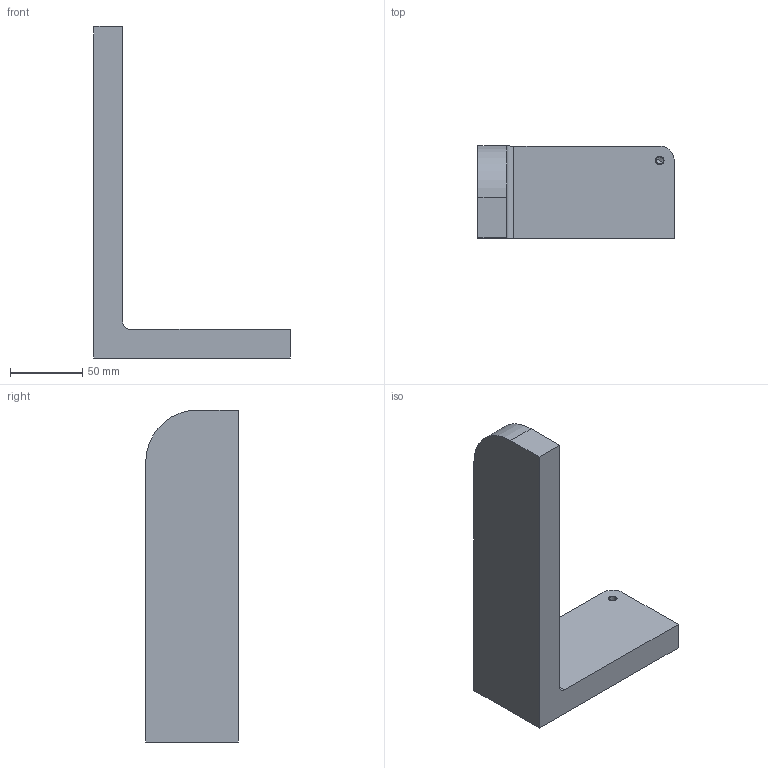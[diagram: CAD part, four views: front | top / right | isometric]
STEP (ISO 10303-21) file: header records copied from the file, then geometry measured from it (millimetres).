
FILE_DESCRIPTION(('CATIA V5 STEP Exchange'),'2;1');
FILE_NAME('C:\_Andres\UNIVERSIDAD\IQS\ASIGNATURAS\DAO\EXF\EXF-16172c\2inicio\Villarroya_Marquina_Ej01_v36.stp','2017-03-05T15:11:13+00:00',('none'),('none'),'CATIA Version 5-6 Release 2014 SP1 HF18','CATIA V5 STEP AP203','none');
FILE_SCHEMA(('CONFIG_CONTROL_DESIGN'));
Length unit declared in the file: millimetre
Products named in the file (1): Villarroya_Marquina_Ej01_v36
Bounding box: 136 x 64 x 230 mm (x, y, z)
Volume: 436918.9 mm3; surface area: 60043.6 mm2
Topology: 1 solids, 2 shells, 17 faces, 43 edges, 27 vertices
Faces by surface type: plane 8, cylinder 7, cone 2
Entity records: 513 total; most frequent: CARTESIAN_POINT 83, ORIENTED_EDGE 78, DIRECTION 69, EDGE_CURVE 41, AXIS2_PLACEMENT_3D 29, VECTOR 27, LINE 27, VERTEX_POINT 27
